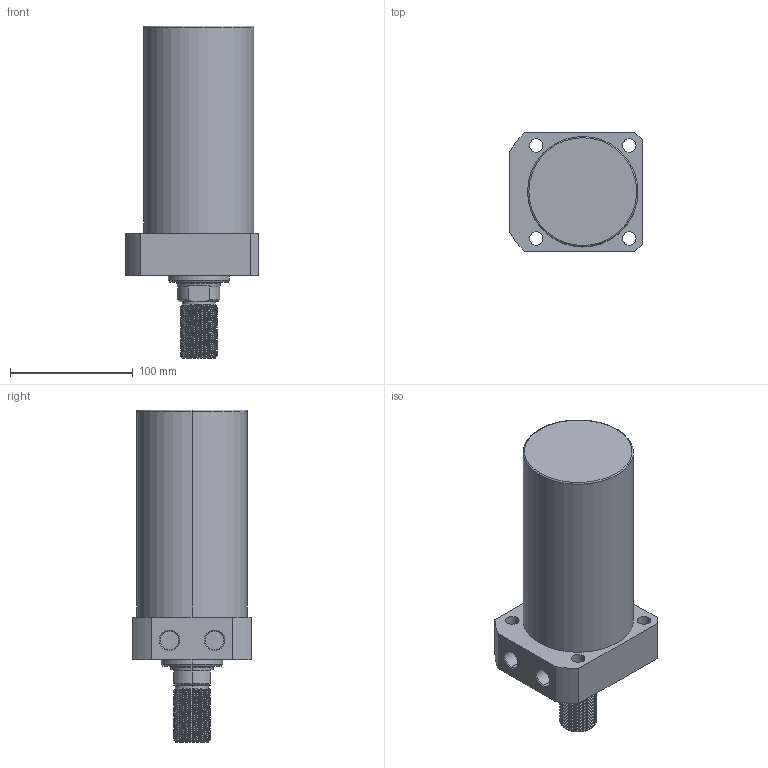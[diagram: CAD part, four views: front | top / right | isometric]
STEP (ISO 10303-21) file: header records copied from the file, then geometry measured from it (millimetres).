
FILE_DESCRIPTION (( 'STEP AP214' ), '1' );
FILE_NAME ('CLLR-090CT-125.STEP', '2020-01-10T02:42:14', ( 'Windows' ), ( 'Microsoft' ), 'SwSTEP 2.0', 'SolidWorks 2015', '' );
FILE_SCHEMA (( 'AUTOMOTIVE_DESIGN' ));
Length unit declared in the file: millimetre
Products named in the file (1): CLLR-090CT-125
Bounding box: 108 x 97 x 271 mm (x, y, z)
Volume: 1468635.7 mm3; surface area: 97134.3 mm2
Topology: 1 solids, 1 shells, 125 faces, 331 edges, 216 vertices
Faces by surface type: cylinder 85, plane 20, cone 16, torus 2, bspline 2
Entity records: 7064 total; most frequent: CARTESIAN_POINT 4168, ORIENTED_EDGE 662, DIRECTION 530, EDGE_CURVE 331, VERTEX_POINT 216, AXIS2_PLACEMENT_3D 204, EDGE_LOOP 141, FACE_OUTER_BOUND 125
